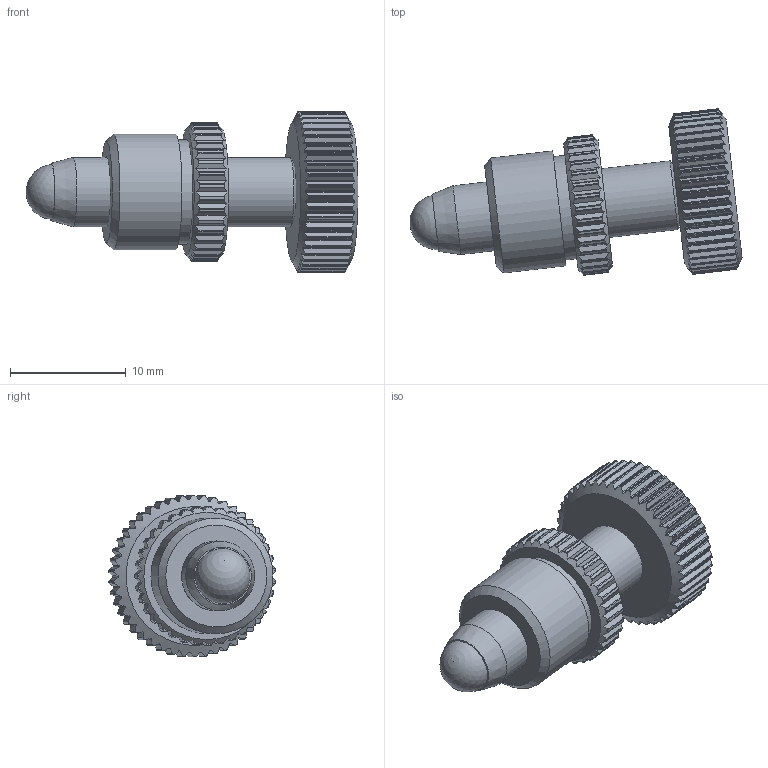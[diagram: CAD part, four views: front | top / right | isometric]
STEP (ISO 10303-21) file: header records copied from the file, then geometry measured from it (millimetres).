
FILE_DESCRIPTION(/* description */ (''),/* implementation_level */ '2;1');
FILE_NAME(/* name */ 'U:\KONSTRUKTORIAI\DOKUMENTACIJA\9\9S127M\STEP\9S127M-10.stp',/* time_stamp */ '2017-02-21T11:10:07+02:00',/* author */ ('dsgn33'),/* organization */ (''),/* preprocessor_version */ 'ST-DEVELOPER v15.2',/* originating_system */ 'Autodesk Inventor 2014',/* authorisation */ '');
FILE_SCHEMA (('AUTOMOTIVE_DESIGN { 1 0 10303 214 3 1 1 }'));
Length unit declared in the file: millimetre
Products named in the file (2): Part48; Assembly7
Bounding box: 28.71 x 14.4 x 14 mm (x, y, z)
Volume: 1787.6 mm3; surface area: 1513.1 mm2
Topology: 1 solids, 4 shells, 781 faces, 2274 edges, 1512 vertices
Faces by surface type: cylinder 390, plane 308, bspline 64, cone 16, sphere 3
Full cylindrical faces by diameter (mm): 1.5 x1, 2 x1, 3 x1, 3.1 x1, 4.6 x1, 6 x2, 9 x1, 10 x1
Entity records: 27558 total; most frequent: CARTESIAN_POINT 8766, ORIENTED_EDGE 4458, DIRECTION 3344, EDGE_CURVE 2228, VERTEX_POINT 1494, AXIS2_PLACEMENT_3D 1222, LINE 900, VECTOR 900
